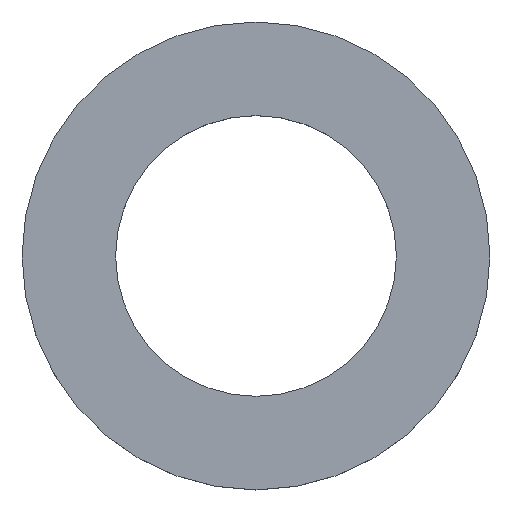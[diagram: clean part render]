
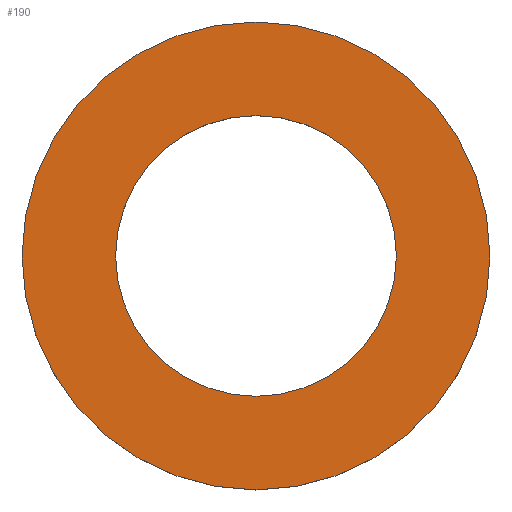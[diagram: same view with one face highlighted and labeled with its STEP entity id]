
A CAD part, top view. The second image highlights one B-rep face of the part: STEP entity #190.
In plain terms, the highlighted planar face has unit normal (0, 0, 1).
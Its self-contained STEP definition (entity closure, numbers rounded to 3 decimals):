
#24 = VERTEX_POINT('',#25);
#25 = CARTESIAN_POINT('',(15.,0.,3.));
#32 = CYLINDRICAL_SURFACE('',#33,15.);
#33 = AXIS2_PLACEMENT_3D('',#34,#35,#36);
#34 = CARTESIAN_POINT('',(0.,0.,0.));
#35 = DIRECTION('',(-0.,-0.,-1.));
#36 = DIRECTION('',(1.,0.,-0.));
#51 = EDGE_CURVE('',#24,#24,#52,.T.);
#52 = SURFACE_CURVE('',#53,(#58,#65),.PCURVE_S1.);
#53 = CIRCLE('',#54,15.);
#54 = AXIS2_PLACEMENT_3D('',#55,#56,#57);
#55 = CARTESIAN_POINT('',(0.,0.,3.));
#56 = DIRECTION('',(0.,0.,1.));
#57 = DIRECTION('',(1.,0.,-0.));
#58 = PCURVE('',#32,#59);
#59 = DEFINITIONAL_REPRESENTATION('',(#60),#64);
#60 = LINE('',#61,#62);
#61 = CARTESIAN_POINT('',(-0.,-3.));
#62 = VECTOR('',#63,1.);
#63 = DIRECTION('',(-1.,0.));
#64 = ( GEOMETRIC_REPRESENTATION_CONTEXT(2) 
PARAMETRIC_REPRESENTATION_CONTEXT() REPRESENTATION_CONTEXT('2D SPACE',''
  ) );
#65 = PCURVE('',#66,#71);
#66 = PLANE('',#67);
#67 = AXIS2_PLACEMENT_3D('',#68,#69,#70);
#68 = CARTESIAN_POINT('',(0.,0.,3.));
#69 = DIRECTION('',(0.,0.,1.));
#70 = DIRECTION('',(1.,0.,-0.));
#71 = DEFINITIONAL_REPRESENTATION('',(#72),#76);
#72 = CIRCLE('',#73,15.);
#73 = AXIS2_PLACEMENT_2D('',#74,#75);
#74 = CARTESIAN_POINT('',(0.,0.));
#75 = DIRECTION('',(1.,0.));
#76 = ( GEOMETRIC_REPRESENTATION_CONTEXT(2) 
PARAMETRIC_REPRESENTATION_CONTEXT() REPRESENTATION_CONTEXT('2D SPACE',''
  ) );
#112 = VERTEX_POINT('',#113);
#113 = CARTESIAN_POINT('',(9.,0.,3.));
#120 = CYLINDRICAL_SURFACE('',#121,9.);
#121 = AXIS2_PLACEMENT_3D('',#122,#123,#124);
#122 = CARTESIAN_POINT('',(0.,0.,0.));
#123 = DIRECTION('',(-0.,-0.,-1.));
#124 = DIRECTION('',(1.,0.,-0.));
#139 = EDGE_CURVE('',#112,#112,#140,.T.);
#140 = SURFACE_CURVE('',#141,(#146,#153),.PCURVE_S1.);
#141 = CIRCLE('',#142,9.);
#142 = AXIS2_PLACEMENT_3D('',#143,#144,#145);
#143 = CARTESIAN_POINT('',(0.,0.,3.));
#144 = DIRECTION('',(0.,0.,1.));
#145 = DIRECTION('',(1.,0.,-0.));
#146 = PCURVE('',#120,#147);
#147 = DEFINITIONAL_REPRESENTATION('',(#148),#152);
#148 = LINE('',#149,#150);
#149 = CARTESIAN_POINT('',(-0.,-3.));
#150 = VECTOR('',#151,1.);
#151 = DIRECTION('',(-1.,0.));
#152 = ( GEOMETRIC_REPRESENTATION_CONTEXT(2) 
PARAMETRIC_REPRESENTATION_CONTEXT() REPRESENTATION_CONTEXT('2D SPACE',''
  ) );
#153 = PCURVE('',#66,#154);
#154 = DEFINITIONAL_REPRESENTATION('',(#155),#159);
#155 = CIRCLE('',#156,9.);
#156 = AXIS2_PLACEMENT_2D('',#157,#158);
#157 = CARTESIAN_POINT('',(0.,0.));
#158 = DIRECTION('',(1.,0.));
#159 = ( GEOMETRIC_REPRESENTATION_CONTEXT(2) 
PARAMETRIC_REPRESENTATION_CONTEXT() REPRESENTATION_CONTEXT('2D SPACE',''
  ) );
#190 = ADVANCED_FACE('',(#191,#194),#66,.T.);
#191 = FACE_BOUND('',#192,.T.);
#192 = EDGE_LOOP('',(#193));
#193 = ORIENTED_EDGE('',*,*,#51,.T.);
#194 = FACE_BOUND('',#195,.F.);
#195 = EDGE_LOOP('',(#196));
#196 = ORIENTED_EDGE('',*,*,#139,.T.);
